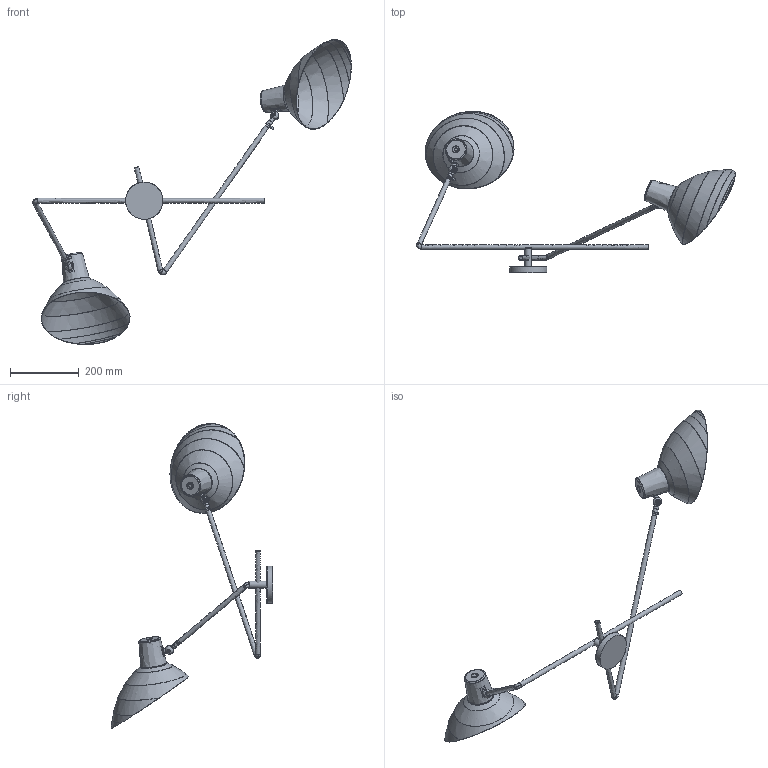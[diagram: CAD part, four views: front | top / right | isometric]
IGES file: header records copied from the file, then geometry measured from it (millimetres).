
Global section: file name: /Volumes/GoogleDrive/Team Drives/Marketing/PR & Marketing /CAD Public/VV Cinquanta/Astep VV Cinquanta Twin 3D/Astep VV Cinquanta Twin.igs; preprocessor: Trout Lake IGES 012 Jul 15 2015; date: 180514.101315; units: millimetre
Bounding box: 926.24 x 470.24 x 886.58 mm (x, y, z)
Surface area: 594820.1 mm2 (no closed solid volume)
Topology: 0 solids, 0 shells, 330 faces, 2466 edges, 2439 vertices
Faces by surface type: bspline 330
